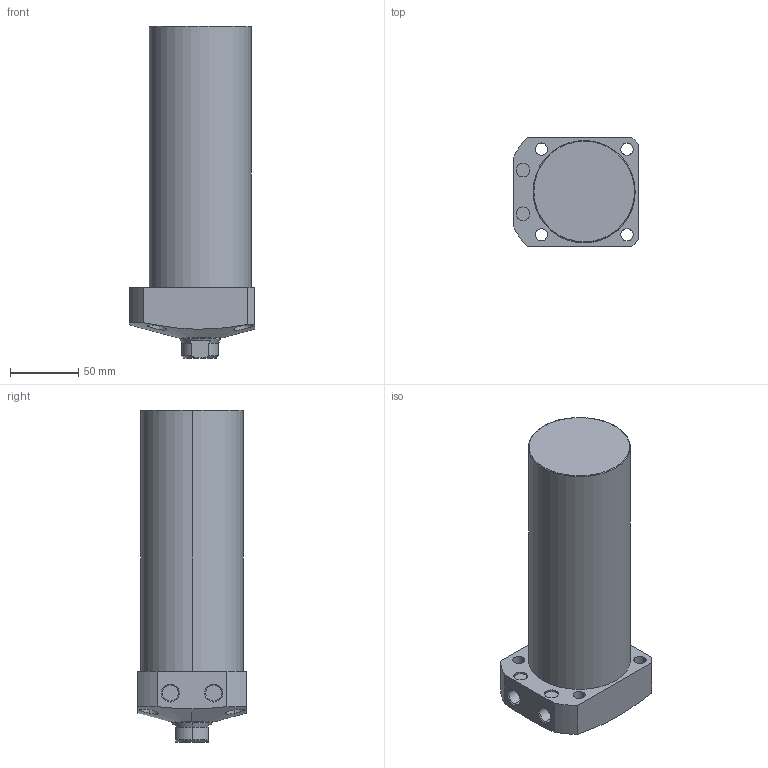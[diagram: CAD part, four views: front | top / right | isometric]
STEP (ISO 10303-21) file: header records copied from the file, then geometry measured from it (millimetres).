
FILE_DESCRIPTION (( 'STEP AP203' ), '1' );
FILE_NAME ('CLL-075CA-155.STEP', '2019-12-23T08:55:38', ( '' ), ( '' ), 'SwSTEP 2.0', 'SolidWorks 2015', '' );
FILE_SCHEMA (( 'CONFIG_CONTROL_DESIGN' ));
Length unit declared in the file: millimetre
Products named in the file (1): CLL-075CA-155
Bounding box: 92 x 80 x 244 mm (x, y, z)
Volume: 1067288 mm3; surface area: 77573.3 mm2
Topology: 1 solids, 1 shells, 74 faces, 171 edges, 108 vertices
Faces by surface type: cylinder 35, plane 22, cone 15, torus 2
Entity records: 2610 total; most frequent: CARTESIAN_POINT 815, DIRECTION 376, ORIENTED_EDGE 338, EDGE_CURVE 169, AXIS2_PLACEMENT_3D 156, VERTEX_POINT 108, EDGE_LOOP 93, CIRCLE 81
